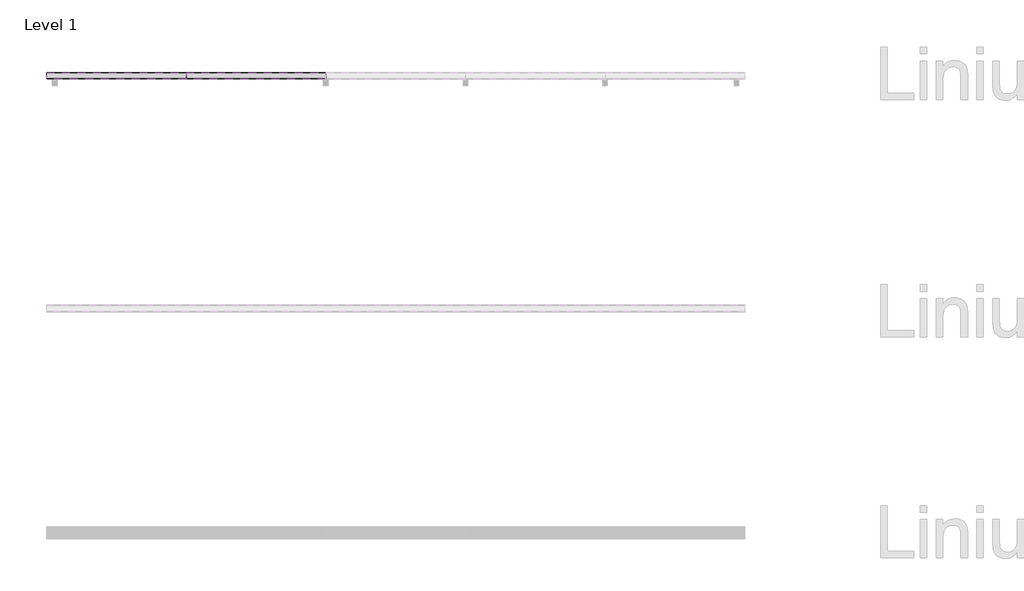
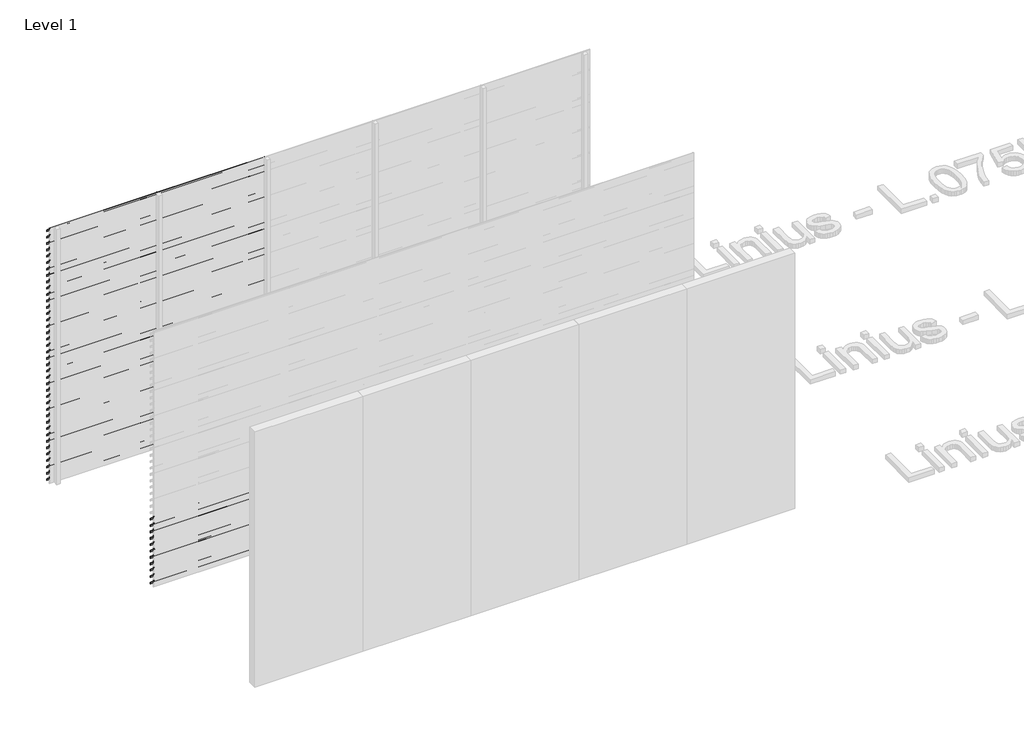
# One storey, part 26 of 55: 85 proxies.
"""IFC4 building model written with IfcOpenShell, lengths in millimetres."""

from ifc_helpers import new_model, si_unit, frame, origin, place, context, project, spatial, polyline, outline, extrude, element, save

model = new_model("IFC4")

# Units and contexts
model_context = context("Model", 3, world=origin())
ifc_project = project(units=[si_unit("LENGTHUNIT", "METRE", prefix="MILLI")], contexts=[model_context])

# Site, building, storey
site = spatial("IfcSite", under=ifc_project)
building = spatial("IfcBuilding", under=site)
storey = spatial("IfcBuildingStorey", under=building, Name="Level 1", Elevation=0.0)

# Proxies
placement = place(None, origin())
element("IfcBuildingElementProxy", 1, Name="Wall Sweeps", at=placement, inside=storey, context=model_context, shape_type="SweptSolid", body=[
    extrude(outline(polyline([(36581.0540136, 2943.5), (36581.0540136, 2923.5), (36579.8040136, 2924.2216933), (36579.8040136, 2942.7872415), (36526.0540136, 2980.3158044), (36526.0540136, 3000.0), (36527.3040136, 3000.0), (36527.3040136, 2981.0285629), (36581.0540136, 2943.5)])), frame((466.6208097, 0.0, 0.0), z_axis=(1.0, 0.0, 0.0), x_axis=(0.0, 1.0, 0.0)), (0.0, 0.0, 1.0), 1200.0000002),
])
element("IfcBuildingElementProxy", 2, Name="Wall Sweeps", at=placement, inside=storey, context=model_context, shape_type="SweptSolid", body=[
    extrude(outline(polyline([(36581.0540136, 2868.5), (36581.0540136, 2848.5), (36579.8040136, 2849.2216933), (36579.8040136, 2867.7872415), (36526.0540136, 2905.3158044), (36526.0540136, 2925.0), (36527.3040136, 2925.0), (36527.3040136, 2906.0285629), (36581.0540136, 2868.5)])), frame((466.6208097, 0.0, 0.0), z_axis=(1.0, 0.0, 0.0), x_axis=(0.0, 1.0, 0.0)), (0.0, 0.0, 1.0), 1200.0000002),
])
element("IfcBuildingElementProxy", 3, Name="Wall Sweeps", at=placement, inside=storey, context=model_context, shape_type="SweptSolid", body=[
    extrude(outline(polyline([(36581.0540136, 2793.5), (36581.0540136, 2773.5), (36579.8040136, 2774.2216933), (36579.8040136, 2792.7872415), (36526.0540136, 2830.3158044), (36526.0540136, 2850.0), (36527.3040136, 2850.0), (36527.3040136, 2831.0285629), (36581.0540136, 2793.5)])), frame((466.6208097, 0.0, 0.0), z_axis=(1.0, 0.0, 0.0), x_axis=(0.0, 1.0, 0.0)), (0.0, 0.0, 1.0), 1200.0000002),
])
element("IfcBuildingElementProxy", 4, Name="Wall Sweeps", at=placement, inside=storey, context=model_context, shape_type="SweptSolid", body=[
    extrude(outline(polyline([(36581.0540136, 2718.5), (36581.0540136, 2698.5), (36579.8040136, 2699.2216933), (36579.8040136, 2717.7872415), (36526.0540136, 2755.3158044), (36526.0540136, 2775.0), (36527.3040136, 2775.0), (36527.3040136, 2756.0285629), (36581.0540136, 2718.5)])), frame((466.6208097, 0.0, 0.0), z_axis=(1.0, 0.0, 0.0), x_axis=(0.0, 1.0, 0.0)), (0.0, 0.0, 1.0), 1200.0000002),
])
element("IfcBuildingElementProxy", 5, Name="Wall Sweeps", at=placement, inside=storey, context=model_context, shape_type="SweptSolid", body=[
    extrude(outline(polyline([(36581.0540136, 2643.5), (36581.0540136, 2623.5), (36579.8040136, 2624.2216933), (36579.8040136, 2642.7872415), (36526.0540136, 2680.3158044), (36526.0540136, 2700.0), (36527.3040136, 2700.0), (36527.3040136, 2681.0285629), (36581.0540136, 2643.5)])), frame((466.6208097, 0.0, 0.0), z_axis=(1.0, 0.0, 0.0), x_axis=(0.0, 1.0, 0.0)), (0.0, 0.0, 1.0), 1200.0000002),
])
element("IfcBuildingElementProxy", 6, Name="Wall Sweeps", at=placement, inside=storey, context=model_context, shape_type="SweptSolid", body=[
    extrude(outline(polyline([(36581.0540136, 2568.5), (36581.0540136, 2548.5), (36579.8040136, 2549.2216933), (36579.8040136, 2567.7872415), (36526.0540136, 2605.3158044), (36526.0540136, 2625.0), (36527.3040136, 2625.0), (36527.3040136, 2606.0285629), (36581.0540136, 2568.5)])), frame((466.6208097, 0.0, 0.0), z_axis=(1.0, 0.0, 0.0), x_axis=(0.0, 1.0, 0.0)), (0.0, 0.0, 1.0), 1200.0000002),
])
element("IfcBuildingElementProxy", 7, Name="Wall Sweeps", at=placement, inside=storey, context=model_context, shape_type="SweptSolid", body=[
    extrude(outline(polyline([(36581.0540136, 2493.5), (36581.0540136, 2473.5), (36579.8040136, 2474.2216933), (36579.8040136, 2492.7872415), (36526.0540136, 2530.3158044), (36526.0540136, 2550.0), (36527.3040136, 2550.0), (36527.3040136, 2531.0285629), (36581.0540136, 2493.5)])), frame((466.6208097, 0.0, 0.0), z_axis=(1.0, 0.0, 0.0), x_axis=(0.0, 1.0, 0.0)), (0.0, 0.0, 1.0), 1200.0000002),
])
element("IfcBuildingElementProxy", 8, Name="Wall Sweeps", at=placement, inside=storey, context=model_context, shape_type="SweptSolid", body=[
    extrude(outline(polyline([(36581.0540136, 2418.5), (36581.0540136, 2398.5), (36579.8040136, 2399.2216933), (36579.8040136, 2417.7872415), (36526.0540136, 2455.3158044), (36526.0540136, 2475.0), (36527.3040136, 2475.0), (36527.3040136, 2456.0285629), (36581.0540136, 2418.5)])), frame((466.6208097, 0.0, 0.0), z_axis=(1.0, 0.0, 0.0), x_axis=(0.0, 1.0, 0.0)), (0.0, 0.0, 1.0), 1200.0000002),
])
element("IfcBuildingElementProxy", 9, Name="Wall Sweeps", at=placement, inside=storey, context=model_context, shape_type="SweptSolid", body=[
    extrude(outline(polyline([(36581.0540136, 2343.5), (36581.0540136, 2323.5), (36579.8040136, 2324.2216933), (36579.8040136, 2342.7872415), (36526.0540136, 2380.3158044), (36526.0540136, 2400.0), (36527.3040136, 2400.0), (36527.3040136, 2381.0285629), (36581.0540136, 2343.5)])), frame((466.6208097, 0.0, 0.0), z_axis=(1.0, 0.0, 0.0), x_axis=(0.0, 1.0, 0.0)), (0.0, 0.0, 1.0), 1200.0000002),
])
element("IfcBuildingElementProxy", 10, Name="Wall Sweeps", at=placement, inside=storey, context=model_context, shape_type="SweptSolid", body=[
    extrude(outline(polyline([(36581.0540136, 2268.5), (36581.0540136, 2248.5), (36579.8040136, 2249.2216933), (36579.8040136, 2267.7872415), (36526.0540136, 2305.3158044), (36526.0540136, 2325.0), (36527.3040136, 2325.0), (36527.3040136, 2306.0285629), (36581.0540136, 2268.5)])), frame((466.6208097, 0.0, 0.0), z_axis=(1.0, 0.0, 0.0), x_axis=(0.0, 1.0, 0.0)), (0.0, 0.0, 1.0), 1200.0000002),
])
element("IfcBuildingElementProxy", 11, Name="Wall Sweeps", at=placement, inside=storey, context=model_context, shape_type="SweptSolid", body=[
    extrude(outline(polyline([(36581.0540136, 2193.5), (36581.0540136, 2173.5), (36579.8040136, 2174.2216933), (36579.8040136, 2192.7872415), (36526.0540136, 2230.3158044), (36526.0540136, 2250.0), (36527.3040136, 2250.0), (36527.3040136, 2231.0285629), (36581.0540136, 2193.5)])), frame((466.6208097, 0.0, 0.0), z_axis=(1.0, 0.0, 0.0), x_axis=(0.0, 1.0, 0.0)), (0.0, 0.0, 1.0), 1200.0000002),
])
element("IfcBuildingElementProxy", 12, Name="Wall Sweeps", at=placement, inside=storey, context=model_context, shape_type="SweptSolid", body=[
    extrude(outline(polyline([(36581.0540136, 2118.5), (36581.0540136, 2098.5), (36579.8040136, 2099.2216933), (36579.8040136, 2117.7872415), (36526.0540136, 2155.3158044), (36526.0540136, 2175.0), (36527.3040136, 2175.0), (36527.3040136, 2156.0285629), (36581.0540136, 2118.5)])), frame((466.6208097, 0.0, 0.0), z_axis=(1.0, 0.0, 0.0), x_axis=(0.0, 1.0, 0.0)), (0.0, 0.0, 1.0), 1200.0000002),
])
element("IfcBuildingElementProxy", 13, Name="Wall Sweeps", at=placement, inside=storey, context=model_context, shape_type="SweptSolid", body=[
    extrude(outline(polyline([(36581.0540136, 2043.5), (36581.0540136, 2023.5), (36579.8040136, 2024.2216933), (36579.8040136, 2042.7872415), (36526.0540136, 2080.3158044), (36526.0540136, 2100.0), (36527.3040136, 2100.0), (36527.3040136, 2081.0285629), (36581.0540136, 2043.5)])), frame((466.6208097, 0.0, 0.0), z_axis=(1.0, 0.0, 0.0), x_axis=(0.0, 1.0, 0.0)), (0.0, 0.0, 1.0), 1200.0000002),
])
element("IfcBuildingElementProxy", 14, Name="Wall Sweeps", at=placement, inside=storey, context=model_context, shape_type="SweptSolid", body=[
    extrude(outline(polyline([(36581.0540136, 1968.5), (36581.0540136, 1948.5), (36579.8040136, 1949.2216933), (36579.8040136, 1967.7872415), (36526.0540136, 2005.3158044), (36526.0540136, 2025.0), (36527.3040136, 2025.0), (36527.3040136, 2006.0285629), (36581.0540136, 1968.5)])), frame((466.6208097, 0.0, 0.0), z_axis=(1.0, 0.0, 0.0), x_axis=(0.0, 1.0, 0.0)), (0.0, 0.0, 1.0), 1200.0000002),
])
element("IfcBuildingElementProxy", 15, Name="Wall Sweeps", at=placement, inside=storey, context=model_context, shape_type="SweptSolid", body=[
    extrude(outline(polyline([(36581.0540136, 1893.5), (36581.0540136, 1873.5), (36579.8040136, 1874.2216933), (36579.8040136, 1892.7872415), (36526.0540136, 1930.3158044), (36526.0540136, 1950.0), (36527.3040136, 1950.0), (36527.3040136, 1931.0285629), (36581.0540136, 1893.5)])), frame((466.6208097, 0.0, 0.0), z_axis=(1.0, 0.0, 0.0), x_axis=(0.0, 1.0, 0.0)), (0.0, 0.0, 1.0), 1200.0000002),
])
element("IfcBuildingElementProxy", 16, Name="Wall Sweeps", at=placement, inside=storey, context=model_context, shape_type="SweptSolid", body=[
    extrude(outline(polyline([(36581.0540136, 1818.5), (36581.0540136, 1798.5), (36579.8040136, 1799.2216933), (36579.8040136, 1817.7872415), (36526.0540136, 1855.3158044), (36526.0540136, 1875.0), (36527.3040136, 1875.0), (36527.3040136, 1856.0285629), (36581.0540136, 1818.5)])), frame((466.6208097, 0.0, 0.0), z_axis=(1.0, 0.0, 0.0), x_axis=(0.0, 1.0, 0.0)), (0.0, 0.0, 1.0), 1200.0000002),
])
element("IfcBuildingElementProxy", 17, Name="Wall Sweeps", at=placement, inside=storey, context=model_context, shape_type="SweptSolid", body=[
    extrude(outline(polyline([(36581.0540136, 1743.5), (36581.0540136, 1723.5), (36579.8040136, 1724.2216933), (36579.8040136, 1742.7872415), (36526.0540136, 1780.3158044), (36526.0540136, 1800.0), (36527.3040136, 1800.0), (36527.3040136, 1781.0285629), (36581.0540136, 1743.5)])), frame((466.6208097, 0.0, 0.0), z_axis=(1.0, 0.0, 0.0), x_axis=(0.0, 1.0, 0.0)), (0.0, 0.0, 1.0), 1200.0000002),
])
element("IfcBuildingElementProxy", 18, Name="Wall Sweeps", at=placement, inside=storey, context=model_context, shape_type="SweptSolid", body=[
    extrude(outline(polyline([(36581.0540136, 1668.5), (36581.0540136, 1648.5), (36579.8040136, 1649.2216933), (36579.8040136, 1667.7872415), (36526.0540136, 1705.3158044), (36526.0540136, 1725.0), (36527.3040136, 1725.0), (36527.3040136, 1706.0285629), (36581.0540136, 1668.5)])), frame((466.6208097, 0.0, 0.0), z_axis=(1.0, 0.0, 0.0), x_axis=(0.0, 1.0, 0.0)), (0.0, 0.0, 1.0), 1200.0000002),
])
element("IfcBuildingElementProxy", 19, Name="Wall Sweeps", at=placement, inside=storey, context=model_context, shape_type="SweptSolid", body=[
    extrude(outline(polyline([(36581.0540136, 1593.5), (36581.0540136, 1573.5), (36579.8040136, 1574.2216933), (36579.8040136, 1592.7872415), (36526.0540136, 1630.3158044), (36526.0540136, 1650.0), (36527.3040136, 1650.0), (36527.3040136, 1631.0285629), (36581.0540136, 1593.5)])), frame((466.6208097, 0.0, 0.0), z_axis=(1.0, 0.0, 0.0), x_axis=(0.0, 1.0, 0.0)), (0.0, 0.0, 1.0), 1200.0000002),
])
element("IfcBuildingElementProxy", 20, Name="Wall Sweeps", at=placement, inside=storey, context=model_context, shape_type="SweptSolid", body=[
    extrude(outline(polyline([(36581.0540136, 1518.5), (36581.0540136, 1498.5), (36579.8040136, 1499.2216933), (36579.8040136, 1517.7872415), (36526.0540136, 1555.3158044), (36526.0540136, 1575.0), (36527.3040136, 1575.0), (36527.3040136, 1556.0285629), (36581.0540136, 1518.5)])), frame((466.6208097, 0.0, 0.0), z_axis=(1.0, 0.0, 0.0), x_axis=(0.0, 1.0, 0.0)), (0.0, 0.0, 1.0), 1200.0000002),
])
element("IfcBuildingElementProxy", 21, Name="Wall Sweeps", at=placement, inside=storey, context=model_context, shape_type="SweptSolid", body=[
    extrude(outline(polyline([(36581.0540136, 1443.5), (36581.0540136, 1423.5), (36579.8040136, 1424.2216933), (36579.8040136, 1442.7872415), (36526.0540136, 1480.3158044), (36526.0540136, 1500.0), (36527.3040136, 1500.0), (36527.3040136, 1481.0285629), (36581.0540136, 1443.5)])), frame((466.6208097, 0.0, 0.0), z_axis=(1.0, 0.0, 0.0), x_axis=(0.0, 1.0, 0.0)), (0.0, 0.0, 1.0), 1200.0000002),
])
element("IfcBuildingElementProxy", 22, Name="Wall Sweeps", at=placement, inside=storey, context=model_context, shape_type="SweptSolid", body=[
    extrude(outline(polyline([(36581.0540136, 1368.5), (36581.0540136, 1348.5), (36579.8040136, 1349.2216933), (36579.8040136, 1367.7872415), (36526.0540136, 1405.3158044), (36526.0540136, 1425.0), (36527.3040136, 1425.0), (36527.3040136, 1406.0285629), (36581.0540136, 1368.5)])), frame((466.6208097, 0.0, 0.0), z_axis=(1.0, 0.0, 0.0), x_axis=(0.0, 1.0, 0.0)), (0.0, 0.0, 1.0), 1200.0000002),
])
element("IfcBuildingElementProxy", 23, Name="Wall Sweeps", at=placement, inside=storey, context=model_context, shape_type="SweptSolid", body=[
    extrude(outline(polyline([(36581.0540136, 1293.5), (36581.0540136, 1273.5), (36579.8040136, 1274.2216933), (36579.8040136, 1292.7872415), (36526.0540136, 1330.3158044), (36526.0540136, 1350.0), (36527.3040136, 1350.0), (36527.3040136, 1331.0285629), (36581.0540136, 1293.5)])), frame((466.6208097, 0.0, 0.0), z_axis=(1.0, 0.0, 0.0), x_axis=(0.0, 1.0, 0.0)), (0.0, 0.0, 1.0), 1200.0000002),
])
element("IfcBuildingElementProxy", 24, Name="Wall Sweeps", at=placement, inside=storey, context=model_context, shape_type="SweptSolid", body=[
    extrude(outline(polyline([(36581.0540136, 1218.5), (36581.0540136, 1198.5), (36579.8040136, 1199.2216933), (36579.8040136, 1217.7872415), (36526.0540136, 1255.3158044), (36526.0540136, 1275.0), (36527.3040136, 1275.0), (36527.3040136, 1256.0285629), (36581.0540136, 1218.5)])), frame((466.6208097, 0.0, 0.0), z_axis=(1.0, 0.0, 0.0), x_axis=(0.0, 1.0, 0.0)), (0.0, 0.0, 1.0), 1200.0000002),
])
element("IfcBuildingElementProxy", 25, Name="Wall Sweeps", at=placement, inside=storey, context=model_context, shape_type="SweptSolid", body=[
    extrude(outline(polyline([(36581.0540136, 1143.5), (36581.0540136, 1123.5), (36579.8040136, 1124.2216933), (36579.8040136, 1142.7872415), (36526.0540136, 1180.3158044), (36526.0540136, 1200.0), (36527.3040136, 1200.0), (36527.3040136, 1181.0285629), (36581.0540136, 1143.5)])), frame((466.6208097, 0.0, 0.0), z_axis=(1.0, 0.0, 0.0), x_axis=(0.0, 1.0, 0.0)), (0.0, 0.0, 1.0), 1200.0000002),
])
element("IfcBuildingElementProxy", 26, Name="Wall Sweeps", at=placement, inside=storey, context=model_context, shape_type="SweptSolid", body=[
    extrude(outline(polyline([(36581.0540136, 1068.5), (36581.0540136, 1048.5), (36579.8040136, 1049.2216933), (36579.8040136, 1067.7872415), (36526.0540136, 1105.3158044), (36526.0540136, 1125.0), (36527.3040136, 1125.0), (36527.3040136, 1106.0285629), (36581.0540136, 1068.5)])), frame((466.6208097, 0.0, 0.0), z_axis=(1.0, 0.0, 0.0), x_axis=(0.0, 1.0, 0.0)), (0.0, 0.0, 1.0), 1200.0000002),
])
element("IfcBuildingElementProxy", 27, Name="Wall Sweeps", at=placement, inside=storey, context=model_context, shape_type="SweptSolid", body=[
    extrude(outline(polyline([(36581.0540136, 993.5), (36581.0540136, 973.5), (36579.8040136, 974.2216933), (36579.8040136, 992.7872415), (36526.0540136, 1030.3158044), (36526.0540136, 1050.0), (36527.3040136, 1050.0), (36527.3040136, 1031.0285629), (36581.0540136, 993.5)])), frame((466.6208097, 0.0, 0.0), z_axis=(1.0, 0.0, 0.0), x_axis=(0.0, 1.0, 0.0)), (0.0, 0.0, 1.0), 1200.0000002),
])
element("IfcBuildingElementProxy", 28, Name="Wall Sweeps", at=placement, inside=storey, context=model_context, shape_type="SweptSolid", body=[
    extrude(outline(polyline([(36581.0540136, 918.5), (36581.0540136, 898.5), (36579.8040136, 899.2216933), (36579.8040136, 917.7872415), (36526.0540136, 955.3158044), (36526.0540136, 975.0), (36527.3040136, 975.0), (36527.3040136, 956.0285629), (36581.0540136, 918.5)])), frame((466.6208097, 0.0, 0.0), z_axis=(1.0, 0.0, 0.0), x_axis=(0.0, 1.0, 0.0)), (0.0, 0.0, 1.0), 1200.0000002),
])
element("IfcBuildingElementProxy", 29, Name="Wall Sweeps", at=placement, inside=storey, context=model_context, shape_type="SweptSolid", body=[
    extrude(outline(polyline([(36581.0540136, 843.5), (36581.0540136, 823.5), (36579.8040136, 824.2216933), (36579.8040136, 842.7872415), (36526.0540136, 880.3158044), (36526.0540136, 900.0), (36527.3040136, 900.0), (36527.3040136, 881.0285629), (36581.0540136, 843.5)])), frame((466.6208097, 0.0, 0.0), z_axis=(1.0, 0.0, 0.0), x_axis=(0.0, 1.0, 0.0)), (0.0, 0.0, 1.0), 1200.0000002),
])
element("IfcBuildingElementProxy", 30, Name="Wall Sweeps", at=placement, inside=storey, context=model_context, shape_type="SweptSolid", body=[
    extrude(outline(polyline([(36581.0540136, 768.5), (36581.0540136, 748.5), (36579.8040136, 749.2216933), (36579.8040136, 767.7872415), (36526.0540136, 805.3158044), (36526.0540136, 825.0), (36527.3040136, 825.0), (36527.3040136, 806.0285629), (36581.0540136, 768.5)])), frame((466.6208097, 0.0, 0.0), z_axis=(1.0, 0.0, 0.0), x_axis=(0.0, 1.0, 0.0)), (0.0, 0.0, 1.0), 1200.0000002),
])
element("IfcBuildingElementProxy", 31, Name="Wall Sweeps", at=placement, inside=storey, context=model_context, shape_type="SweptSolid", body=[
    extrude(outline(polyline([(36581.0540136, 693.5), (36581.0540136, 673.5), (36579.8040136, 674.2216933), (36579.8040136, 692.7872415), (36526.0540136, 730.3158044), (36526.0540136, 750.0), (36527.3040136, 750.0), (36527.3040136, 731.0285629), (36581.0540136, 693.5)])), frame((466.6208097, 0.0, 0.0), z_axis=(1.0, 0.0, 0.0), x_axis=(0.0, 1.0, 0.0)), (0.0, 0.0, 1.0), 1200.0000002),
])
element("IfcBuildingElementProxy", 32, Name="Wall Sweeps", at=placement, inside=storey, context=model_context, shape_type="SweptSolid", body=[
    extrude(outline(polyline([(36581.0540136, 618.5), (36581.0540136, 598.5), (36579.8040136, 599.2216933), (36579.8040136, 617.7872415), (36526.0540136, 655.3158044), (36526.0540136, 675.0), (36527.3040136, 675.0), (36527.3040136, 656.0285629), (36581.0540136, 618.5)])), frame((466.6208097, 0.0, 0.0), z_axis=(1.0, 0.0, 0.0), x_axis=(0.0, 1.0, 0.0)), (0.0, 0.0, 1.0), 1200.0000002),
])
element("IfcBuildingElementProxy", 33, Name="Wall Sweeps", at=placement, inside=storey, context=model_context, shape_type="SweptSolid", body=[
    extrude(outline(polyline([(36581.0540136, 543.5), (36581.0540136, 523.5), (36579.8040136, 524.2216933), (36579.8040136, 542.7872415), (36526.0540136, 580.3158044), (36526.0540136, 600.0), (36527.3040136, 600.0), (36527.3040136, 581.0285629), (36581.0540136, 543.5)])), frame((466.6208097, 0.0, 0.0), z_axis=(1.0, 0.0, 0.0), x_axis=(0.0, 1.0, 0.0)), (0.0, 0.0, 1.0), 1200.0000002),
])
element("IfcBuildingElementProxy", 34, Name="Wall Sweeps", at=placement, inside=storey, context=model_context, shape_type="SweptSolid", body=[
    extrude(outline(polyline([(36581.0540136, 468.5), (36581.0540136, 448.5), (36579.8040136, 449.2216933), (36579.8040136, 467.7872415), (36526.0540136, 505.3158044), (36526.0540136, 525.0), (36527.3040136, 525.0), (36527.3040136, 506.0285629), (36581.0540136, 468.5)])), frame((466.6208097, 0.0, 0.0), z_axis=(1.0, 0.0, 0.0), x_axis=(0.0, 1.0, 0.0)), (0.0, 0.0, 1.0), 1200.0000002),
])
element("IfcBuildingElementProxy", 35, Name="Wall Sweeps", at=placement, inside=storey, context=model_context, shape_type="SweptSolid", body=[
    extrude(outline(polyline([(36581.0540136, 393.5), (36581.0540136, 373.5), (36579.8040136, 374.2216933), (36579.8040136, 392.7872415), (36526.0540136, 430.3158044), (36526.0540136, 450.0), (36527.3040136, 450.0), (36527.3040136, 431.0285629), (36581.0540136, 393.5)])), frame((466.6208097, 0.0, 0.0), z_axis=(1.0, 0.0, 0.0), x_axis=(0.0, 1.0, 0.0)), (0.0, 0.0, 1.0), 1200.0000002),
])
element("IfcBuildingElementProxy", 36, Name="Wall Sweeps", at=placement, inside=storey, context=model_context, shape_type="SweptSolid", body=[
    extrude(outline(polyline([(36581.0540136, 318.5), (36581.0540136, 298.5), (36579.8040136, 299.2216933), (36579.8040136, 317.7872415), (36526.0540136, 355.3158044), (36526.0540136, 375.0), (36527.3040136, 375.0), (36527.3040136, 356.0285629), (36581.0540136, 318.5)])), frame((466.6208097, 0.0, 0.0), z_axis=(1.0, 0.0, 0.0), x_axis=(0.0, 1.0, 0.0)), (0.0, 0.0, 1.0), 1200.0000002),
])
element("IfcBuildingElementProxy", 37, Name="Wall Sweeps", at=placement, inside=storey, context=model_context, shape_type="SweptSolid", body=[
    extrude(outline(polyline([(36581.0540136, 243.5), (36581.0540136, 223.5), (36579.8040136, 224.2216933), (36579.8040136, 242.7872415), (36526.0540136, 280.3158044), (36526.0540136, 300.0), (36527.3040136, 300.0), (36527.3040136, 281.0285629), (36581.0540136, 243.5)])), frame((466.6208097, 0.0, 0.0), z_axis=(1.0, 0.0, 0.0), x_axis=(0.0, 1.0, 0.0)), (0.0, 0.0, 1.0), 1200.0000002),
])
element("IfcBuildingElementProxy", 38, Name="Wall Sweeps", at=placement, inside=storey, context=model_context, shape_type="SweptSolid", body=[
    extrude(outline(polyline([(36581.0540136, 168.5), (36581.0540136, 148.5), (36579.8040136, 149.2216933), (36579.8040136, 167.7872415), (36526.0540136, 205.3158044), (36526.0540136, 225.0), (36527.3040136, 225.0), (36527.3040136, 206.0285629), (36581.0540136, 168.5)])), frame((466.6208097, 0.0, 0.0), z_axis=(1.0, 0.0, 0.0), x_axis=(0.0, 1.0, 0.0)), (0.0, 0.0, 1.0), 1200.0000002),
])
element("IfcBuildingElementProxy", 39, Name="Wall Sweeps", at=placement, inside=storey, context=model_context, shape_type="SweptSolid", body=[
    extrude(outline(polyline([(36581.0540136, 93.5), (36581.0540136, 73.5), (36579.8040136, 74.2216933), (36579.8040136, 92.7872415), (36526.0540136, 130.3158044), (36526.0540136, 150.0), (36527.3040136, 150.0), (36527.3040136, 131.0285629), (36581.0540136, 93.5)])), frame((466.6208097, 0.0, 0.0), z_axis=(1.0, 0.0, 0.0), x_axis=(0.0, 1.0, 0.0)), (0.0, 0.0, 1.0), 1200.0000002),
])
element("IfcBuildingElementProxy", 40, Name="Wall Sweeps", at=placement, inside=storey, context=model_context, shape_type="SweptSolid", body=[
    extrude(outline(polyline([(36581.0540136, 18.5), (36581.0540136, -1.5), (36579.8040136, -0.7783067), (36579.8040136, 17.7872415), (36526.0540136, 55.3158044), (36526.0540136, 75.0), (36527.3040136, 75.0), (36527.3040136, 56.0285629), (36581.0540136, 18.5)])), frame((466.6208097, 0.0, 0.0), z_axis=(1.0, 0.0, 0.0), x_axis=(0.0, 1.0, 0.0)), (0.0, 0.0, 1.0), 1200.0000002),
])
element("IfcBuildingElementProxy", 41, Name="Wall Sweeps", at=placement, inside=storey, context=model_context, shape_type="SweptSolid", body=[
    extrude(outline(polyline([(36581.0540136, 2943.5), (36581.0540136, 2923.5), (36579.8040136, 2924.2216933), (36579.8040136, 2942.7872415), (36526.0540136, 2980.3158044), (36526.0540136, 3000.0), (36527.3040136, 3000.0), (36527.3040136, 2981.0285629), (36581.0540136, 2943.5)])), frame((1666.6208099, 0.0, 0.0), z_axis=(1.0, 0.0, 0.0), x_axis=(0.0, 1.0, 0.0)), (0.0, 0.0, 1.0), 1199.9999999),
])
element("IfcBuildingElementProxy", 42, Name="Wall Sweeps", at=placement, inside=storey, context=model_context, shape_type="SweptSolid", body=[
    extrude(outline(polyline([(36581.0540136, 2868.5), (36581.0540136, 2848.5), (36579.8040136, 2849.2216933), (36579.8040136, 2867.7872415), (36526.0540136, 2905.3158044), (36526.0540136, 2925.0), (36527.3040136, 2925.0), (36527.3040136, 2906.0285629), (36581.0540136, 2868.5)])), frame((1666.6208099, 0.0, 0.0), z_axis=(1.0, 0.0, 0.0), x_axis=(0.0, 1.0, 0.0)), (0.0, 0.0, 1.0), 1199.9999999),
])
element("IfcBuildingElementProxy", 43, Name="Wall Sweeps", at=placement, inside=storey, context=model_context, shape_type="SweptSolid", body=[
    extrude(outline(polyline([(36581.0540136, 2793.5), (36581.0540136, 2773.5), (36579.8040136, 2774.2216933), (36579.8040136, 2792.7872415), (36526.0540136, 2830.3158044), (36526.0540136, 2850.0), (36527.3040136, 2850.0), (36527.3040136, 2831.0285629), (36581.0540136, 2793.5)])), frame((1666.6208099, 0.0, 0.0), z_axis=(1.0, 0.0, 0.0), x_axis=(0.0, 1.0, 0.0)), (0.0, 0.0, 1.0), 1199.9999999),
])
element("IfcBuildingElementProxy", 44, Name="Wall Sweeps", at=placement, inside=storey, context=model_context, shape_type="SweptSolid", body=[
    extrude(outline(polyline([(36581.0540136, 2718.5), (36581.0540136, 2698.5), (36579.8040136, 2699.2216933), (36579.8040136, 2717.7872415), (36526.0540136, 2755.3158044), (36526.0540136, 2775.0), (36527.3040136, 2775.0), (36527.3040136, 2756.0285629), (36581.0540136, 2718.5)])), frame((1666.6208099, 0.0, 0.0), z_axis=(1.0, 0.0, 0.0), x_axis=(0.0, 1.0, 0.0)), (0.0, 0.0, 1.0), 1199.9999999),
])
element("IfcBuildingElementProxy", 45, Name="Wall Sweeps", at=placement, inside=storey, context=model_context, shape_type="SweptSolid", body=[
    extrude(outline(polyline([(36581.0540136, 2643.5), (36581.0540136, 2623.5), (36579.8040136, 2624.2216933), (36579.8040136, 2642.7872415), (36526.0540136, 2680.3158044), (36526.0540136, 2700.0), (36527.3040136, 2700.0), (36527.3040136, 2681.0285629), (36581.0540136, 2643.5)])), frame((1666.6208099, 0.0, 0.0), z_axis=(1.0, 0.0, 0.0), x_axis=(0.0, 1.0, 0.0)), (0.0, 0.0, 1.0), 1199.9999999),
])
element("IfcBuildingElementProxy", 46, Name="Wall Sweeps", at=placement, inside=storey, context=model_context, shape_type="SweptSolid", body=[
    extrude(outline(polyline([(36581.0540136, 2568.5), (36581.0540136, 2548.5), (36579.8040136, 2549.2216933), (36579.8040136, 2567.7872415), (36526.0540136, 2605.3158044), (36526.0540136, 2625.0), (36527.3040136, 2625.0), (36527.3040136, 2606.0285629), (36581.0540136, 2568.5)])), frame((1666.6208099, 0.0, 0.0), z_axis=(1.0, 0.0, 0.0), x_axis=(0.0, 1.0, 0.0)), (0.0, 0.0, 1.0), 1199.9999999),
])
element("IfcBuildingElementProxy", 47, Name="Wall Sweeps", at=placement, inside=storey, context=model_context, shape_type="SweptSolid", body=[
    extrude(outline(polyline([(36581.0540136, 2493.5), (36581.0540136, 2473.5), (36579.8040136, 2474.2216933), (36579.8040136, 2492.7872415), (36526.0540136, 2530.3158044), (36526.0540136, 2550.0), (36527.3040136, 2550.0), (36527.3040136, 2531.0285629), (36581.0540136, 2493.5)])), frame((1666.6208099, 0.0, 0.0), z_axis=(1.0, 0.0, 0.0), x_axis=(0.0, 1.0, 0.0)), (0.0, 0.0, 1.0), 1199.9999999),
])
element("IfcBuildingElementProxy", 48, Name="Wall Sweeps", at=placement, inside=storey, context=model_context, shape_type="SweptSolid", body=[
    extrude(outline(polyline([(36581.0540136, 2418.5), (36581.0540136, 2398.5), (36579.8040136, 2399.2216933), (36579.8040136, 2417.7872415), (36526.0540136, 2455.3158044), (36526.0540136, 2475.0), (36527.3040136, 2475.0), (36527.3040136, 2456.0285629), (36581.0540136, 2418.5)])), frame((1666.6208099, 0.0, 0.0), z_axis=(1.0, 0.0, 0.0), x_axis=(0.0, 1.0, 0.0)), (0.0, 0.0, 1.0), 1199.9999999),
])
element("IfcBuildingElementProxy", 49, Name="Wall Sweeps", at=placement, inside=storey, context=model_context, shape_type="SweptSolid", body=[
    extrude(outline(polyline([(36581.0540136, 2343.5), (36581.0540136, 2323.5), (36579.8040136, 2324.2216933), (36579.8040136, 2342.7872415), (36526.0540136, 2380.3158044), (36526.0540136, 2400.0), (36527.3040136, 2400.0), (36527.3040136, 2381.0285629), (36581.0540136, 2343.5)])), frame((1666.6208099, 0.0, 0.0), z_axis=(1.0, 0.0, 0.0), x_axis=(0.0, 1.0, 0.0)), (0.0, 0.0, 1.0), 1199.9999999),
])
element("IfcBuildingElementProxy", 50, Name="Wall Sweeps", at=placement, inside=storey, context=model_context, shape_type="SweptSolid", body=[
    extrude(outline(polyline([(36581.0540136, 2268.5), (36581.0540136, 2248.5), (36579.8040136, 2249.2216933), (36579.8040136, 2267.7872415), (36526.0540136, 2305.3158044), (36526.0540136, 2325.0), (36527.3040136, 2325.0), (36527.3040136, 2306.0285629), (36581.0540136, 2268.5)])), frame((1666.6208099, 0.0, 0.0), z_axis=(1.0, 0.0, 0.0), x_axis=(0.0, 1.0, 0.0)), (0.0, 0.0, 1.0), 1199.9999999),
])
element("IfcBuildingElementProxy", 51, Name="Wall Sweeps", at=placement, inside=storey, context=model_context, shape_type="SweptSolid", body=[
    extrude(outline(polyline([(36581.0540136, 2193.5), (36581.0540136, 2173.5), (36579.8040136, 2174.2216933), (36579.8040136, 2192.7872415), (36526.0540136, 2230.3158044), (36526.0540136, 2250.0), (36527.3040136, 2250.0), (36527.3040136, 2231.0285629), (36581.0540136, 2193.5)])), frame((1666.6208099, 0.0, 0.0), z_axis=(1.0, 0.0, 0.0), x_axis=(0.0, 1.0, 0.0)), (0.0, 0.0, 1.0), 1199.9999999),
])
element("IfcBuildingElementProxy", 52, Name="Wall Sweeps", at=placement, inside=storey, context=model_context, shape_type="SweptSolid", body=[
    extrude(outline(polyline([(36581.0540136, 2118.5), (36581.0540136, 2098.5), (36579.8040136, 2099.2216933), (36579.8040136, 2117.7872415), (36526.0540136, 2155.3158044), (36526.0540136, 2175.0), (36527.3040136, 2175.0), (36527.3040136, 2156.0285629), (36581.0540136, 2118.5)])), frame((1666.6208099, 0.0, 0.0), z_axis=(1.0, 0.0, 0.0), x_axis=(0.0, 1.0, 0.0)), (0.0, 0.0, 1.0), 1199.9999999),
])
element("IfcBuildingElementProxy", 53, Name="Wall Sweeps", at=placement, inside=storey, context=model_context, shape_type="SweptSolid", body=[
    extrude(outline(polyline([(36581.0540136, 2043.5), (36581.0540136, 2023.5), (36579.8040136, 2024.2216933), (36579.8040136, 2042.7872415), (36526.0540136, 2080.3158044), (36526.0540136, 2100.0), (36527.3040136, 2100.0), (36527.3040136, 2081.0285629), (36581.0540136, 2043.5)])), frame((1666.6208099, 0.0, 0.0), z_axis=(1.0, 0.0, 0.0), x_axis=(0.0, 1.0, 0.0)), (0.0, 0.0, 1.0), 1199.9999999),
])
element("IfcBuildingElementProxy", 54, Name="Wall Sweeps", at=placement, inside=storey, context=model_context, shape_type="SweptSolid", body=[
    extrude(outline(polyline([(36581.0540136, 1968.5), (36581.0540136, 1948.5), (36579.8040136, 1949.2216933), (36579.8040136, 1967.7872415), (36526.0540136, 2005.3158044), (36526.0540136, 2025.0), (36527.3040136, 2025.0), (36527.3040136, 2006.0285629), (36581.0540136, 1968.5)])), frame((1666.6208099, 0.0, 0.0), z_axis=(1.0, 0.0, 0.0), x_axis=(0.0, 1.0, 0.0)), (0.0, 0.0, 1.0), 1199.9999999),
])
element("IfcBuildingElementProxy", 55, Name="Wall Sweeps", at=placement, inside=storey, context=model_context, shape_type="SweptSolid", body=[
    extrude(outline(polyline([(36581.0540136, 1893.5), (36581.0540136, 1873.5), (36579.8040136, 1874.2216933), (36579.8040136, 1892.7872415), (36526.0540136, 1930.3158044), (36526.0540136, 1950.0), (36527.3040136, 1950.0), (36527.3040136, 1931.0285629), (36581.0540136, 1893.5)])), frame((1666.6208099, 0.0, 0.0), z_axis=(1.0, 0.0, 0.0), x_axis=(0.0, 1.0, 0.0)), (0.0, 0.0, 1.0), 1199.9999999),
])
element("IfcBuildingElementProxy", 56, Name="Wall Sweeps", at=placement, inside=storey, context=model_context, shape_type="SweptSolid", body=[
    extrude(outline(polyline([(36581.0540136, 1818.5), (36581.0540136, 1798.5), (36579.8040136, 1799.2216933), (36579.8040136, 1817.7872415), (36526.0540136, 1855.3158044), (36526.0540136, 1875.0), (36527.3040136, 1875.0), (36527.3040136, 1856.0285629), (36581.0540136, 1818.5)])), frame((1666.6208099, 0.0, 0.0), z_axis=(1.0, 0.0, 0.0), x_axis=(0.0, 1.0, 0.0)), (0.0, 0.0, 1.0), 1199.9999999),
])
element("IfcBuildingElementProxy", 57, Name="Wall Sweeps", at=placement, inside=storey, context=model_context, shape_type="SweptSolid", body=[
    extrude(outline(polyline([(36581.0540136, 1743.5), (36581.0540136, 1723.5), (36579.8040136, 1724.2216933), (36579.8040136, 1742.7872415), (36526.0540136, 1780.3158044), (36526.0540136, 1800.0), (36527.3040136, 1800.0), (36527.3040136, 1781.0285629), (36581.0540136, 1743.5)])), frame((1666.6208099, 0.0, 0.0), z_axis=(1.0, 0.0, 0.0), x_axis=(0.0, 1.0, 0.0)), (0.0, 0.0, 1.0), 1199.9999999),
])
element("IfcBuildingElementProxy", 58, Name="Wall Sweeps", at=placement, inside=storey, context=model_context, shape_type="SweptSolid", body=[
    extrude(outline(polyline([(36581.0540136, 1668.5), (36581.0540136, 1648.5), (36579.8040136, 1649.2216933), (36579.8040136, 1667.7872415), (36526.0540136, 1705.3158044), (36526.0540136, 1725.0), (36527.3040136, 1725.0), (36527.3040136, 1706.0285629), (36581.0540136, 1668.5)])), frame((1666.6208099, 0.0, 0.0), z_axis=(1.0, 0.0, 0.0), x_axis=(0.0, 1.0, 0.0)), (0.0, 0.0, 1.0), 1199.9999999),
])
element("IfcBuildingElementProxy", 59, Name="Wall Sweeps", at=placement, inside=storey, context=model_context, shape_type="SweptSolid", body=[
    extrude(outline(polyline([(36581.0540136, 1593.5), (36581.0540136, 1573.5), (36579.8040136, 1574.2216933), (36579.8040136, 1592.7872415), (36526.0540136, 1630.3158044), (36526.0540136, 1650.0), (36527.3040136, 1650.0), (36527.3040136, 1631.0285629), (36581.0540136, 1593.5)])), frame((1666.6208099, 0.0, 0.0), z_axis=(1.0, 0.0, 0.0), x_axis=(0.0, 1.0, 0.0)), (0.0, 0.0, 1.0), 1199.9999999),
])
element("IfcBuildingElementProxy", 60, Name="Wall Sweeps", at=placement, inside=storey, context=model_context, shape_type="SweptSolid", body=[
    extrude(outline(polyline([(36581.0540136, 1518.5), (36581.0540136, 1498.5), (36579.8040136, 1499.2216933), (36579.8040136, 1517.7872415), (36526.0540136, 1555.3158044), (36526.0540136, 1575.0), (36527.3040136, 1575.0), (36527.3040136, 1556.0285629), (36581.0540136, 1518.5)])), frame((1666.6208099, 0.0, 0.0), z_axis=(1.0, 0.0, 0.0), x_axis=(0.0, 1.0, 0.0)), (0.0, 0.0, 1.0), 1199.9999999),
])
element("IfcBuildingElementProxy", 61, Name="Wall Sweeps", at=placement, inside=storey, context=model_context, shape_type="SweptSolid", body=[
    extrude(outline(polyline([(36581.0540136, 1443.5), (36581.0540136, 1423.5), (36579.8040136, 1424.2216933), (36579.8040136, 1442.7872415), (36526.0540136, 1480.3158044), (36526.0540136, 1500.0), (36527.3040136, 1500.0), (36527.3040136, 1481.0285629), (36581.0540136, 1443.5)])), frame((1666.6208099, 0.0, 0.0), z_axis=(1.0, 0.0, 0.0), x_axis=(0.0, 1.0, 0.0)), (0.0, 0.0, 1.0), 1199.9999999),
])
element("IfcBuildingElementProxy", 62, Name="Wall Sweeps", at=placement, inside=storey, context=model_context, shape_type="SweptSolid", body=[
    extrude(outline(polyline([(36581.0540136, 1368.5), (36581.0540136, 1348.5), (36579.8040136, 1349.2216933), (36579.8040136, 1367.7872415), (36526.0540136, 1405.3158044), (36526.0540136, 1425.0), (36527.3040136, 1425.0), (36527.3040136, 1406.0285629), (36581.0540136, 1368.5)])), frame((1666.6208099, 0.0, 0.0), z_axis=(1.0, 0.0, 0.0), x_axis=(0.0, 1.0, 0.0)), (0.0, 0.0, 1.0), 1199.9999999),
])
element("IfcBuildingElementProxy", 63, Name="Wall Sweeps", at=placement, inside=storey, context=model_context, shape_type="SweptSolid", body=[
    extrude(outline(polyline([(36581.0540136, 1293.5), (36581.0540136, 1273.5), (36579.8040136, 1274.2216933), (36579.8040136, 1292.7872415), (36526.0540136, 1330.3158044), (36526.0540136, 1350.0), (36527.3040136, 1350.0), (36527.3040136, 1331.0285629), (36581.0540136, 1293.5)])), frame((1666.6208099, 0.0, 0.0), z_axis=(1.0, 0.0, 0.0), x_axis=(0.0, 1.0, 0.0)), (0.0, 0.0, 1.0), 1199.9999999),
])
element("IfcBuildingElementProxy", 64, Name="Wall Sweeps", at=placement, inside=storey, context=model_context, shape_type="SweptSolid", body=[
    extrude(outline(polyline([(36581.0540136, 1218.5), (36581.0540136, 1198.5), (36579.8040136, 1199.2216933), (36579.8040136, 1217.7872415), (36526.0540136, 1255.3158044), (36526.0540136, 1275.0), (36527.3040136, 1275.0), (36527.3040136, 1256.0285629), (36581.0540136, 1218.5)])), frame((1666.6208099, 0.0, 0.0), z_axis=(1.0, 0.0, 0.0), x_axis=(0.0, 1.0, 0.0)), (0.0, 0.0, 1.0), 1199.9999999),
])
element("IfcBuildingElementProxy", 65, Name="Wall Sweeps", at=placement, inside=storey, context=model_context, shape_type="SweptSolid", body=[
    extrude(outline(polyline([(36581.0540136, 1143.5), (36581.0540136, 1123.5), (36579.8040136, 1124.2216933), (36579.8040136, 1142.7872415), (36526.0540136, 1180.3158044), (36526.0540136, 1200.0), (36527.3040136, 1200.0), (36527.3040136, 1181.0285629), (36581.0540136, 1143.5)])), frame((1666.6208099, 0.0, 0.0), z_axis=(1.0, 0.0, 0.0), x_axis=(0.0, 1.0, 0.0)), (0.0, 0.0, 1.0), 1199.9999999),
])
element("IfcBuildingElementProxy", 66, Name="Wall Sweeps", at=placement, inside=storey, context=model_context, shape_type="SweptSolid", body=[
    extrude(outline(polyline([(36581.0540136, 1068.5), (36581.0540136, 1048.5), (36579.8040136, 1049.2216933), (36579.8040136, 1067.7872415), (36526.0540136, 1105.3158044), (36526.0540136, 1125.0), (36527.3040136, 1125.0), (36527.3040136, 1106.0285629), (36581.0540136, 1068.5)])), frame((1666.6208099, 0.0, 0.0), z_axis=(1.0, 0.0, 0.0), x_axis=(0.0, 1.0, 0.0)), (0.0, 0.0, 1.0), 1199.9999999),
])
element("IfcBuildingElementProxy", 67, Name="Wall Sweeps", at=placement, inside=storey, context=model_context, shape_type="SweptSolid", body=[
    extrude(outline(polyline([(36581.0540136, 993.5), (36581.0540136, 973.5), (36579.8040136, 974.2216933), (36579.8040136, 992.7872415), (36526.0540136, 1030.3158044), (36526.0540136, 1050.0), (36527.3040136, 1050.0), (36527.3040136, 1031.0285629), (36581.0540136, 993.5)])), frame((1666.6208099, 0.0, 0.0), z_axis=(1.0, 0.0, 0.0), x_axis=(0.0, 1.0, 0.0)), (0.0, 0.0, 1.0), 1199.9999999),
])
element("IfcBuildingElementProxy", 68, Name="Wall Sweeps", at=placement, inside=storey, context=model_context, shape_type="SweptSolid", body=[
    extrude(outline(polyline([(36581.0540136, 918.5), (36581.0540136, 898.5), (36579.8040136, 899.2216933), (36579.8040136, 917.7872415), (36526.0540136, 955.3158044), (36526.0540136, 975.0), (36527.3040136, 975.0), (36527.3040136, 956.0285629), (36581.0540136, 918.5)])), frame((1666.6208099, 0.0, 0.0), z_axis=(1.0, 0.0, 0.0), x_axis=(0.0, 1.0, 0.0)), (0.0, 0.0, 1.0), 1199.9999999),
])
element("IfcBuildingElementProxy", 69, Name="Wall Sweeps", at=placement, inside=storey, context=model_context, shape_type="SweptSolid", body=[
    extrude(outline(polyline([(36581.0540136, 843.5), (36581.0540136, 823.5), (36579.8040136, 824.2216933), (36579.8040136, 842.7872415), (36526.0540136, 880.3158044), (36526.0540136, 900.0), (36527.3040136, 900.0), (36527.3040136, 881.0285629), (36581.0540136, 843.5)])), frame((1666.6208099, 0.0, 0.0), z_axis=(1.0, 0.0, 0.0), x_axis=(0.0, 1.0, 0.0)), (0.0, 0.0, 1.0), 1199.9999999),
])
element("IfcBuildingElementProxy", 70, Name="Wall Sweeps", at=placement, inside=storey, context=model_context, shape_type="SweptSolid", body=[
    extrude(outline(polyline([(36581.0540136, 768.5), (36581.0540136, 748.5), (36579.8040136, 749.2216933), (36579.8040136, 767.7872415), (36526.0540136, 805.3158044), (36526.0540136, 825.0), (36527.3040136, 825.0), (36527.3040136, 806.0285629), (36581.0540136, 768.5)])), frame((1666.6208099, 0.0, 0.0), z_axis=(1.0, 0.0, 0.0), x_axis=(0.0, 1.0, 0.0)), (0.0, 0.0, 1.0), 1199.9999999),
])
element("IfcBuildingElementProxy", 71, Name="Wall Sweeps", at=placement, inside=storey, context=model_context, shape_type="SweptSolid", body=[
    extrude(outline(polyline([(36581.0540136, 693.5), (36581.0540136, 673.5), (36579.8040136, 674.2216933), (36579.8040136, 692.7872415), (36526.0540136, 730.3158044), (36526.0540136, 750.0), (36527.3040136, 750.0), (36527.3040136, 731.0285629), (36581.0540136, 693.5)])), frame((1666.6208099, 0.0, 0.0), z_axis=(1.0, 0.0, 0.0), x_axis=(0.0, 1.0, 0.0)), (0.0, 0.0, 1.0), 1199.9999999),
])
element("IfcBuildingElementProxy", 72, Name="Wall Sweeps", at=placement, inside=storey, context=model_context, shape_type="SweptSolid", body=[
    extrude(outline(polyline([(36581.0540136, 618.5), (36581.0540136, 598.5), (36579.8040136, 599.2216933), (36579.8040136, 617.7872415), (36526.0540136, 655.3158044), (36526.0540136, 675.0), (36527.3040136, 675.0), (36527.3040136, 656.0285629), (36581.0540136, 618.5)])), frame((1666.6208099, 0.0, 0.0), z_axis=(1.0, 0.0, 0.0), x_axis=(0.0, 1.0, 0.0)), (0.0, 0.0, 1.0), 1199.9999999),
])
element("IfcBuildingElementProxy", 73, Name="Wall Sweeps", at=placement, inside=storey, context=model_context, shape_type="SweptSolid", body=[
    extrude(outline(polyline([(36581.0540136, 543.5), (36581.0540136, 523.5), (36579.8040136, 524.2216933), (36579.8040136, 542.7872415), (36526.0540136, 580.3158044), (36526.0540136, 600.0), (36527.3040136, 600.0), (36527.3040136, 581.0285629), (36581.0540136, 543.5)])), frame((1666.6208099, 0.0, 0.0), z_axis=(1.0, 0.0, 0.0), x_axis=(0.0, 1.0, 0.0)), (0.0, 0.0, 1.0), 1199.9999999),
])
element("IfcBuildingElementProxy", 74, Name="Wall Sweeps", at=placement, inside=storey, context=model_context, shape_type="SweptSolid", body=[
    extrude(outline(polyline([(36581.0540136, 468.5), (36581.0540136, 448.5), (36579.8040136, 449.2216933), (36579.8040136, 467.7872415), (36526.0540136, 505.3158044), (36526.0540136, 525.0), (36527.3040136, 525.0), (36527.3040136, 506.0285629), (36581.0540136, 468.5)])), frame((1666.6208099, 0.0, 0.0), z_axis=(1.0, 0.0, 0.0), x_axis=(0.0, 1.0, 0.0)), (0.0, 0.0, 1.0), 1199.9999999),
])
element("IfcBuildingElementProxy", 75, Name="Wall Sweeps", at=placement, inside=storey, context=model_context, shape_type="SweptSolid", body=[
    extrude(outline(polyline([(34581.0540136, 768.5), (34581.0540136, 748.5), (34579.8040136, 749.2216933), (34579.8040136, 767.7872415), (34526.0540136, 805.3158044), (34526.0540136, 825.0), (34527.3040136, 825.0), (34527.3040136, 806.0285629), (34581.0540136, 768.5)])), frame((466.6208097, 0.0, 0.0), z_axis=(1.0, 0.0, 0.0), x_axis=(0.0, 1.0, 0.0)), (0.0, 0.0, 1.0), 6000.0),
])
element("IfcBuildingElementProxy", 76, Name="Wall Sweeps", at=placement, inside=storey, context=model_context, shape_type="SweptSolid", body=[
    extrude(outline(polyline([(34581.0540136, 693.5), (34581.0540136, 673.5), (34579.8040136, 674.2216933), (34579.8040136, 692.7872415), (34526.0540136, 730.3158044), (34526.0540136, 750.0), (34527.3040136, 750.0), (34527.3040136, 731.0285629), (34581.0540136, 693.5)])), frame((466.6208097, 0.0, 0.0), z_axis=(1.0, 0.0, 0.0), x_axis=(0.0, 1.0, 0.0)), (0.0, 0.0, 1.0), 6000.0),
])
element("IfcBuildingElementProxy", 77, Name="Wall Sweeps", at=placement, inside=storey, context=model_context, shape_type="SweptSolid", body=[
    extrude(outline(polyline([(34581.0540136, 618.5), (34581.0540136, 598.5), (34579.8040136, 599.2216933), (34579.8040136, 617.7872415), (34526.0540136, 655.3158044), (34526.0540136, 675.0), (34527.3040136, 675.0), (34527.3040136, 656.0285629), (34581.0540136, 618.5)])), frame((466.6208097, 0.0, 0.0), z_axis=(1.0, 0.0, 0.0), x_axis=(0.0, 1.0, 0.0)), (0.0, 0.0, 1.0), 6000.0),
])
element("IfcBuildingElementProxy", 78, Name="Wall Sweeps", at=placement, inside=storey, context=model_context, shape_type="SweptSolid", body=[
    extrude(outline(polyline([(34581.0540136, 543.5), (34581.0540136, 523.5), (34579.8040136, 524.2216933), (34579.8040136, 542.7872415), (34526.0540136, 580.3158044), (34526.0540136, 600.0), (34527.3040136, 600.0), (34527.3040136, 581.0285629), (34581.0540136, 543.5)])), frame((466.6208097, 0.0, 0.0), z_axis=(1.0, 0.0, 0.0), x_axis=(0.0, 1.0, 0.0)), (0.0, 0.0, 1.0), 6000.0),
])
element("IfcBuildingElementProxy", 79, Name="Wall Sweeps", at=placement, inside=storey, context=model_context, shape_type="SweptSolid", body=[
    extrude(outline(polyline([(34581.0540136, 468.5), (34581.0540136, 448.5), (34579.8040136, 449.2216933), (34579.8040136, 467.7872415), (34526.0540136, 505.3158044), (34526.0540136, 525.0), (34527.3040136, 525.0), (34527.3040136, 506.0285629), (34581.0540136, 468.5)])), frame((466.6208097, 0.0, 0.0), z_axis=(1.0, 0.0, 0.0), x_axis=(0.0, 1.0, 0.0)), (0.0, 0.0, 1.0), 6000.0),
])
element("IfcBuildingElementProxy", 80, Name="Wall Sweeps", at=placement, inside=storey, context=model_context, shape_type="SweptSolid", body=[
    extrude(outline(polyline([(34581.0540136, 393.5), (34581.0540136, 373.5), (34579.8040136, 374.2216933), (34579.8040136, 392.7872415), (34526.0540136, 430.3158044), (34526.0540136, 450.0), (34527.3040136, 450.0), (34527.3040136, 431.0285629), (34581.0540136, 393.5)])), frame((466.6208097, 0.0, 0.0), z_axis=(1.0, 0.0, 0.0), x_axis=(0.0, 1.0, 0.0)), (0.0, 0.0, 1.0), 6000.0),
])
element("IfcBuildingElementProxy", 81, Name="Wall Sweeps", at=placement, inside=storey, context=model_context, shape_type="SweptSolid", body=[
    extrude(outline(polyline([(34581.0540136, 318.5), (34581.0540136, 298.5), (34579.8040136, 299.2216933), (34579.8040136, 317.7872415), (34526.0540136, 355.3158044), (34526.0540136, 375.0), (34527.3040136, 375.0), (34527.3040136, 356.0285629), (34581.0540136, 318.5)])), frame((466.6208097, 0.0, 0.0), z_axis=(1.0, 0.0, 0.0), x_axis=(0.0, 1.0, 0.0)), (0.0, 0.0, 1.0), 6000.0),
])
element("IfcBuildingElementProxy", 82, Name="Wall Sweeps", at=placement, inside=storey, context=model_context, shape_type="SweptSolid", body=[
    extrude(outline(polyline([(34581.0540136, 243.5), (34581.0540136, 223.5), (34579.8040136, 224.2216933), (34579.8040136, 242.7872415), (34526.0540136, 280.3158044), (34526.0540136, 300.0), (34527.3040136, 300.0), (34527.3040136, 281.0285629), (34581.0540136, 243.5)])), frame((466.6208097, 0.0, 0.0), z_axis=(1.0, 0.0, 0.0), x_axis=(0.0, 1.0, 0.0)), (0.0, 0.0, 1.0), 6000.0),
])
element("IfcBuildingElementProxy", 83, Name="Wall Sweeps", at=placement, inside=storey, context=model_context, shape_type="SweptSolid", body=[
    extrude(outline(polyline([(34581.0540136, 168.5), (34581.0540136, 148.5), (34579.8040136, 149.2216933), (34579.8040136, 167.7872415), (34526.0540136, 205.3158044), (34526.0540136, 225.0), (34527.3040136, 225.0), (34527.3040136, 206.0285629), (34581.0540136, 168.5)])), frame((466.6208097, 0.0, 0.0), z_axis=(1.0, 0.0, 0.0), x_axis=(0.0, 1.0, 0.0)), (0.0, 0.0, 1.0), 6000.0),
])
element("IfcBuildingElementProxy", 84, Name="Wall Sweeps", at=placement, inside=storey, context=model_context, shape_type="SweptSolid", body=[
    extrude(outline(polyline([(34581.0540136, 93.5), (34581.0540136, 73.5), (34579.8040136, 74.2216933), (34579.8040136, 92.7872415), (34526.0540136, 130.3158044), (34526.0540136, 150.0), (34527.3040136, 150.0), (34527.3040136, 131.0285629), (34581.0540136, 93.5)])), frame((466.6208097, 0.0, 0.0), z_axis=(1.0, 0.0, 0.0), x_axis=(0.0, 1.0, 0.0)), (0.0, 0.0, 1.0), 6000.0),
])
element("IfcBuildingElementProxy", 85, Name="Wall Sweeps", at=placement, inside=storey, context=model_context, shape_type="SweptSolid", body=[
    extrude(outline(polyline([(34581.0540136, 18.5), (34581.0540136, -1.5), (34579.8040136, -0.7783067), (34579.8040136, 17.7872415), (34526.0540136, 55.3158044), (34526.0540136, 75.0), (34527.3040136, 75.0), (34527.3040136, 56.0285629), (34581.0540136, 18.5)])), frame((466.6208097, 0.0, 0.0), z_axis=(1.0, 0.0, 0.0), x_axis=(0.0, 1.0, 0.0)), (0.0, 0.0, 1.0), 6000.0),
])

save(model, "model.ifc")
